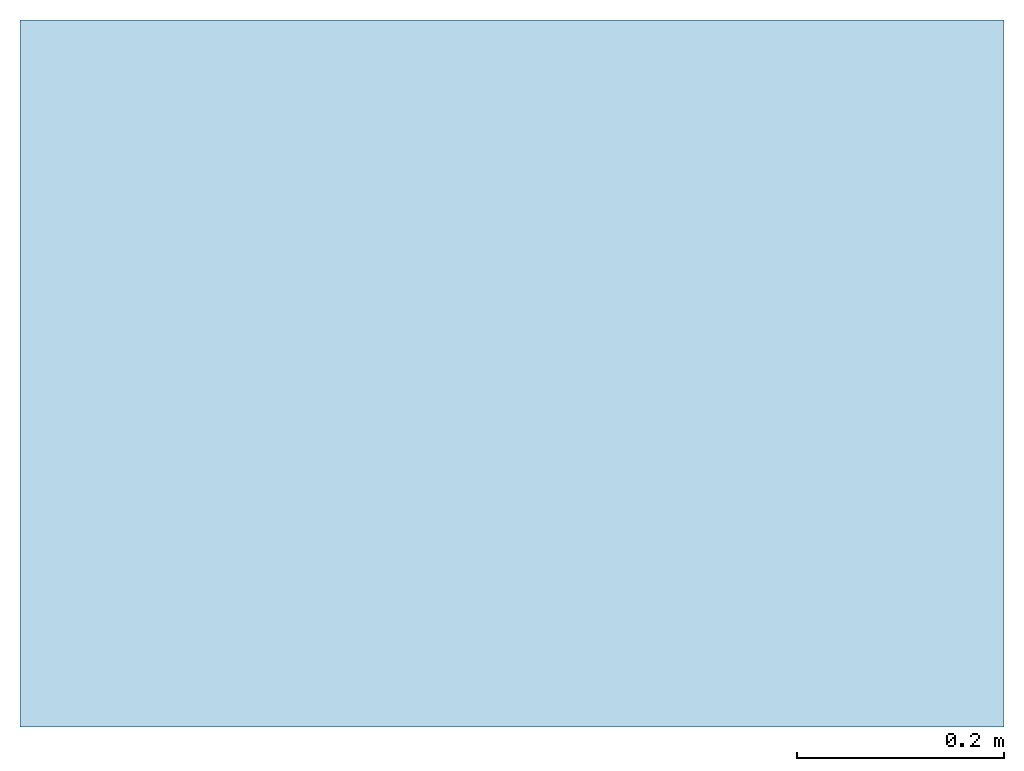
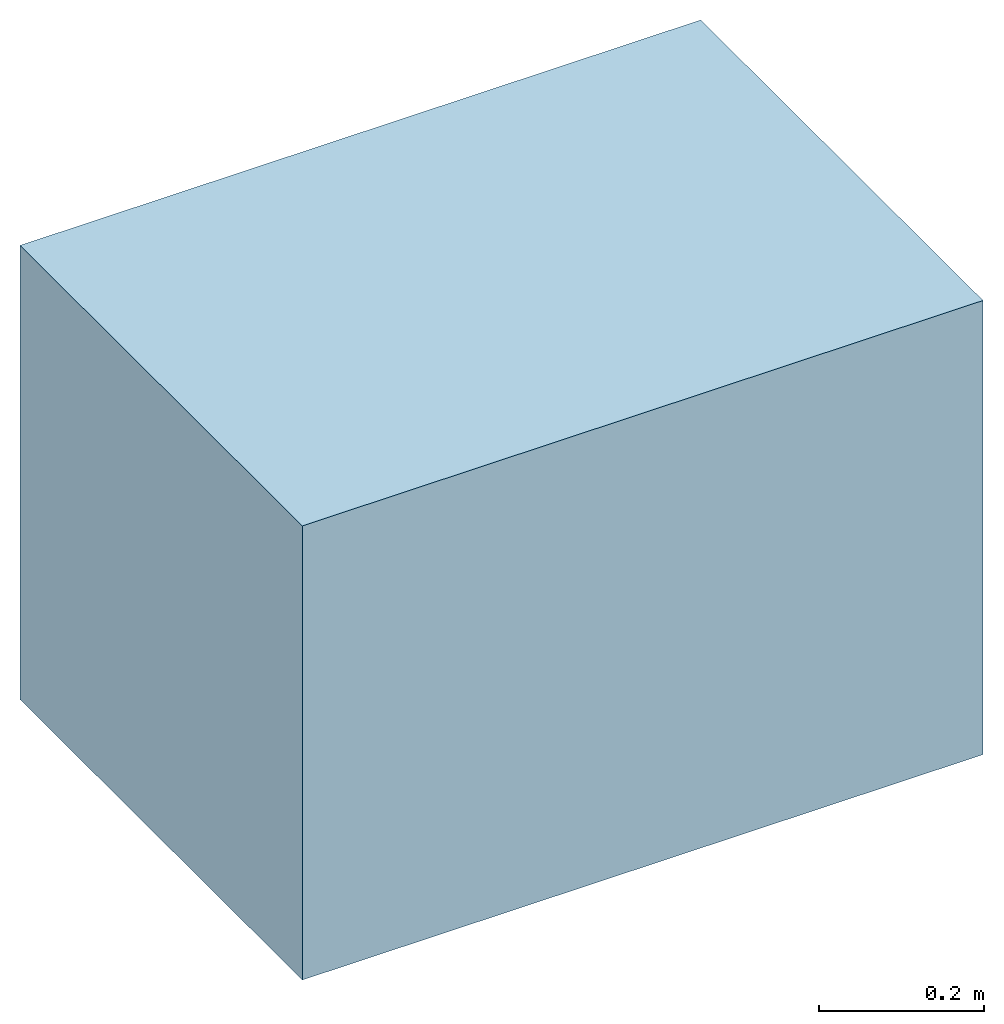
# One storey: 1 slab.
"""IFC4 building model written with IfcOpenShell, lengths in metres."""

from ifc_helpers import new_model, entity, si_unit, converted_unit, direction, frame, frame_2d, origin, place, context, subcontext, project, spatial, rectangle, extrude, material, type_object, element, save


model = new_model("IFC4")

# Units and contexts
model_context = context("Model", 3, precision=1e-05, world=origin(), true_north=direction((6.123031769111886e-17, 1.0)))
body_context = subcontext(model_context, "Body", "Model", "MODEL_VIEW")
ifc_project = project(units=[si_unit("LENGTHUNIT", "METRE"), converted_unit("PLANEANGLEUNIT", "DEGREE", entity("IfcPlaneAngleMeasure", 0.017453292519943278), si_unit("PLANEANGLEUNIT", "RADIAN"), dimensions=[0, 0, 0, 0, 0, 0, 0]), si_unit("AREAUNIT", "SQUARE_METRE")], contexts=[model_context])

# Site, building, storey
site_placement = place(None, origin())
site = spatial("IfcSite", under=ifc_project, at=site_placement, Name="Default", CompositionType="ELEMENT")
building_placement = place(site_placement, origin())
building = spatial("IfcBuilding", under=site, at=building_placement, CompositionType="ELEMENT")
storey_placement = place(building_placement, origin())
storey = spatial("IfcBuildingStorey", under=building, at=storey_placement, Name="Ebene 0", CompositionType="ELEMENT", Elevation=0.0)

# Slab
ifc_material = material(Name="DB_Magerbeton", Category="DB_Beton")
slab_type = type_object("IfcSlabType", Name="DB_BSK_96_Fundament_Ecke_aussen_variabel:DB_BSK_96_Fundament_Ecke_aussen_variabel", PredefinedType="BASESLAB", material=ifc_material)
slab_placement = place(storey_placement, origin())
element("IfcSlab", 1, at=slab_placement, inside=storey, type_object=slab_type, Name="DB_BSK_96_Fundament_Ecke_aussen_variabel:DB_BSK_96_Fundament_Ecke_aussen_variabel", ObjectType="DB_BSK_96_Fundament_Ecke_aussen_variabel:DB_BSK_96_Fundament_Ecke_aussen_variabel", PredefinedType="BASESLAB", context=body_context, shape_type="SweptSolid", body=[
    extrude(rectangle(XDim=0.9500000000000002, YDim=0.6824999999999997, at=frame_2d((2.220446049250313e-16, 1.1102230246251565e-16), x_axis=(1.0, 0.0))), frame((0.36438990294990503, 0.2312499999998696, -1.8549999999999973), z_axis=(0.0, 0.0, 1.0), x_axis=(-1.0, 0.0, 0.0)), (0.0, 0.0, 1.0), 0.11999999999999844),
    extrude(rectangle(XDim=0.9500000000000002, YDim=0.6824999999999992, at=frame_2d((1.942890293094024e-16, 1.6653345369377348e-16), x_axis=(1.0, 0.0))), frame((0.36438990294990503, 0.2312499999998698, -1.734999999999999), z_axis=(0.0, 0.0, 1.0), x_axis=(-1.0, 0.0, 0.0)), (0.0, 0.0, 1.0), 0.5500000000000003),
])

save(model, "model.ifc")
